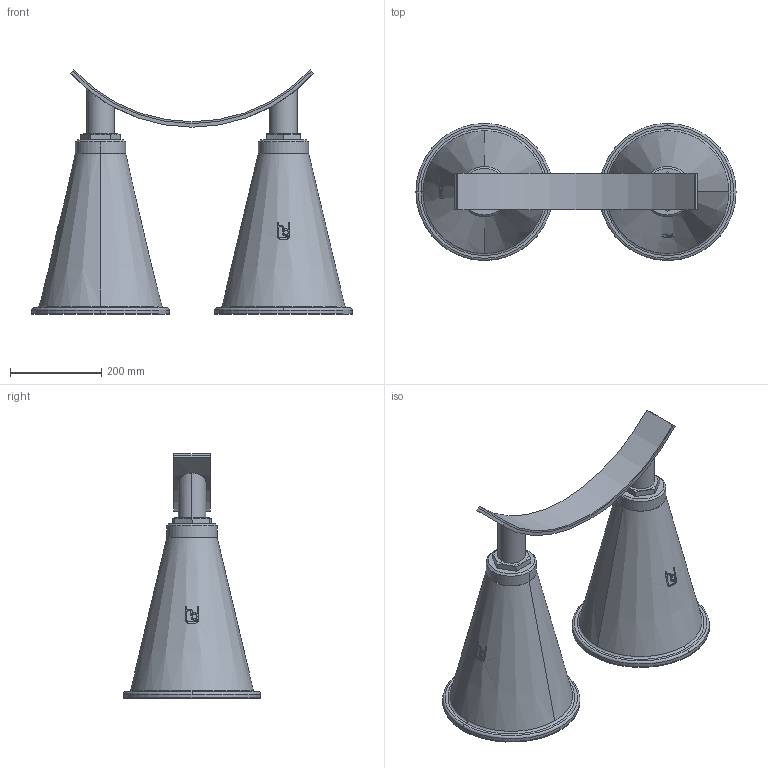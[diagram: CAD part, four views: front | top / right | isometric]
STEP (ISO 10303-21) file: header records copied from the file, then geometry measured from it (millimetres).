
FILE_DESCRIPTION(('STEP AP214'),'1');
FILE_NAME('RSRFB-DUO_DN700.stp','2018-07-02T08:11:06',(' '),(' '),'Spatial InterOp 3D',' ',' ');
FILE_SCHEMA(('automotive_design'));
Length unit declared in the file: millimetre
Products named in the file (10): 1; 2; 3; 4; 5; 6; 7; 8; 9; 10
Bounding box: 700 x 300 x 534.41 mm (x, y, z)
Volume: 25261793.6 mm3; surface area: 1312068.1 mm2
Topology: 10 solids, 12 shells, 200 faces, 478 edges, 310 vertices
Faces by surface type: plane 84, cylinder 70, cone 38, torus 8
Entity records: 8591 total; most frequent: CARTESIAN_POINT 2142, DIRECTION 990, ORIENTED_EDGE 956, EDGE_CURVE 478, AXIS2_PLACEMENT_3D 388, VERTEX_POINT 310, EDGE_LOOP 216, LINE 214
